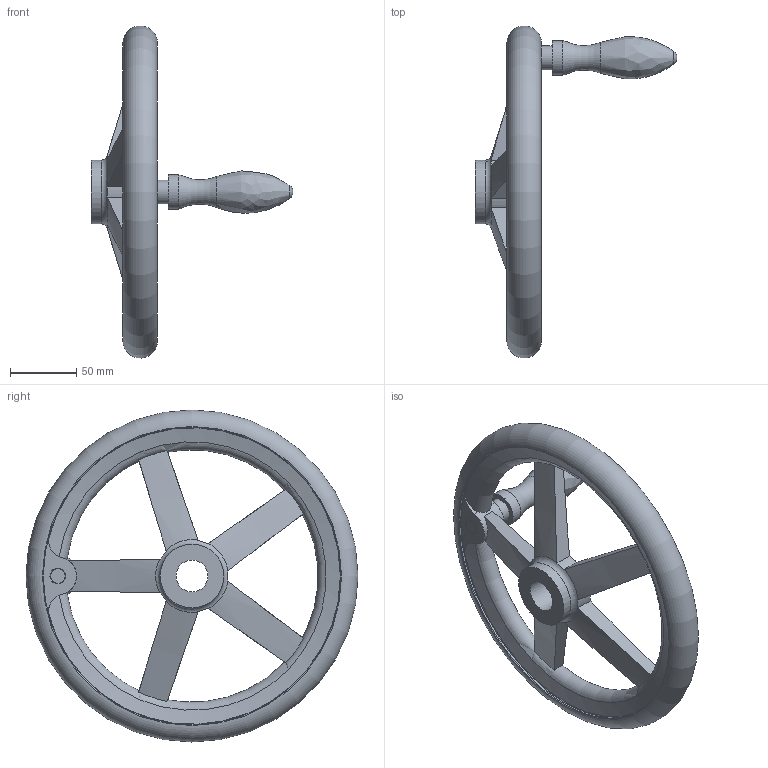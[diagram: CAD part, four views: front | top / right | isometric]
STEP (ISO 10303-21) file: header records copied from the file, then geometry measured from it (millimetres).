
FILE_DESCRIPTION( ( 'STEP AP203' ), '1' );
FILE_NAME( 'C:/Temp/Ganter_Step_05_03_2020/data/1_3/din_950/din_950_b/din_950_b_d/Handwheel DIN 950-AL-250-B24-D.stp', '2020-03-05T10:29:51', ( 'License CC BY-ND 4.0' ), ( 'CADENAS' ), ' ', 'PARTsolutions', ' ' );
FILE_SCHEMA( ( 'CONFIG_CONTROL_DESIGN' ) );
Length unit declared in the file: millimetre
Products named in the file (1): _Handwheel DIN 950-AL-250-B24-D
Bounding box: 152 x 249.92 x 249.92 mm (x, y, z)
Volume: 563544.2 mm3; surface area: 102911.3 mm2
Topology: 1 solids, 1 shells, 58 faces, 165 edges, 106 vertices
Faces by surface type: cylinder 17, plane 16, torus 13, cone 10, bspline 1, sphere 1
Full cylindrical faces by diameter (mm): 18 x1, 24 x1, 26 x1, 48 x2, 224 x2
Entity records: 2315 total; most frequent: CARTESIAN_POINT 927, ORIENTED_EDGE 278, DIRECTION 254, EDGE_CURVE 139, AXIS2_PLACEMENT_3D 119, VERTEX_POINT 102, EDGE_LOOP 87, FACE_OUTER_BOUND 74
